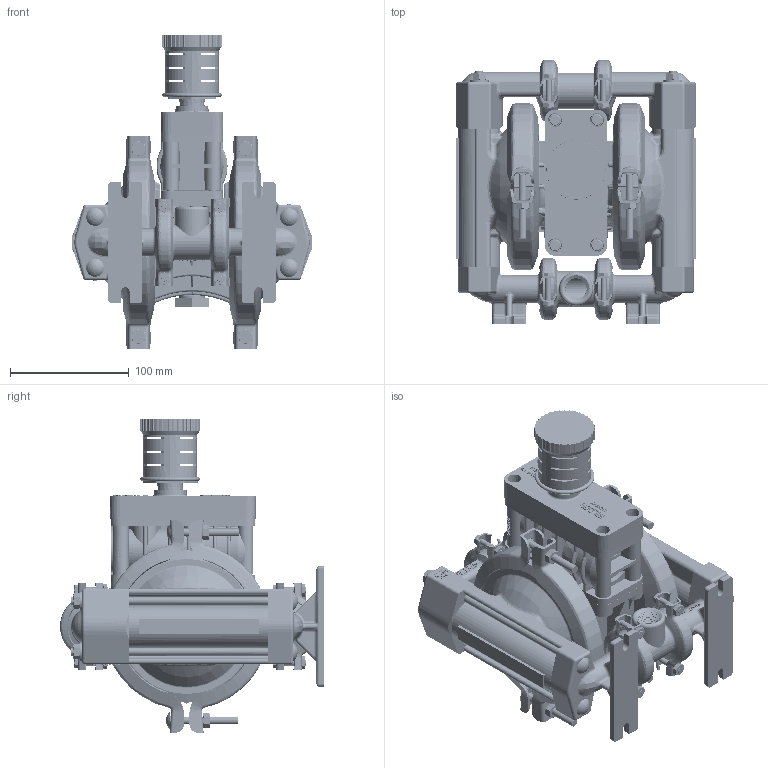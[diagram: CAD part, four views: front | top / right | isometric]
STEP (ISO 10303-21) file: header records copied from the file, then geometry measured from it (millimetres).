
FILE_DESCRIPTION((''),'2;1');
FILE_NAME('P1_METAL_SS','2009-09-02T',('roy.andrade'),(''),'PRO/ENGINEER BY PARAMETRIC TECHNOLOGY CORPORATION, 2008400','PRO/ENGINEER BY PARAMETRIC TECHNOLOGY CORPORATION, 2008400','');
FILE_SCHEMA(('CONFIG_CONTROL_DESIGN'));
Length unit declared in the file: inch
Products named in the file (1): P1_METAL_SS
Bounding box: 203.1 x 222.76 x 264.48 mm (x, y, z)
Volume: 1575099.8 mm3; surface area: 605888.6 mm2
Topology: 11 solids, 15 shells, 10892 faces, 28709 edges, 18191 vertices
Faces by surface type: plane 7011, cylinder 1337, bspline 1295, cone 592, torus 440, sphere 217
Entity records: 582594 total; most frequent: CARTESIAN_POINT 327729, ORIENTED_EDGE 57330, DIRECTION 45737, EDGE_CURVE 28665, VERTEX_POINT 18191, VECTOR 18009, LINE 18009, AXIS2_PLACEMENT_3D 13864
